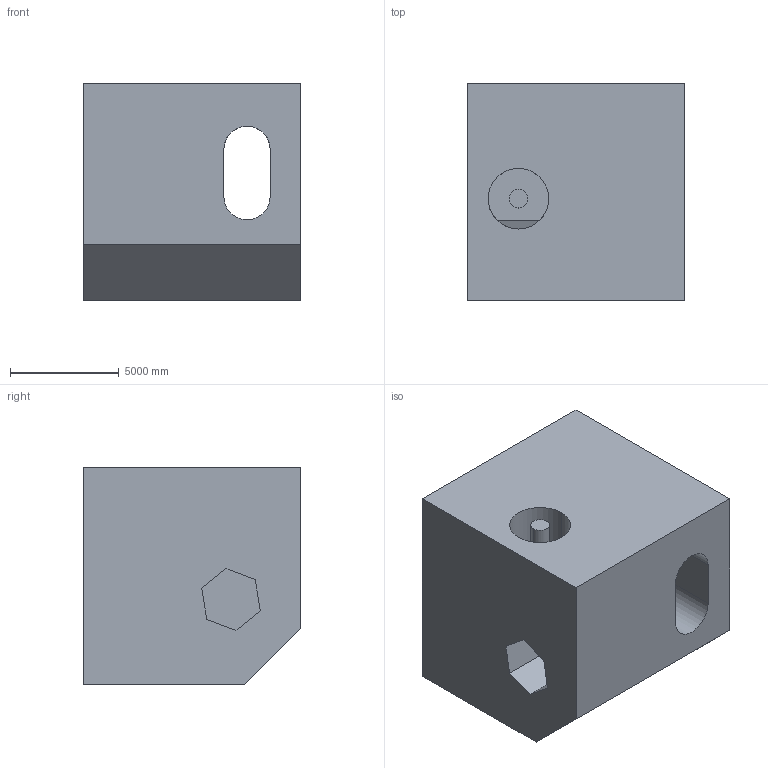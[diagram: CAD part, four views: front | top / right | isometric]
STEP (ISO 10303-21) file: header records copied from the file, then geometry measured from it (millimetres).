
FILE_DESCRIPTION (( 'STEP AP203' ), '1' );
FILE_NAME ('659.STEP', '2022-07-29T12:21:37', ( 'user' ), ( '' ), 'SwSTEP 2.0', 'SolidWorks 2021', '' );
FILE_SCHEMA (( 'CONFIG_CONTROL_DESIGN' ));
Length unit declared in the file: centimetre
Products named in the file (1): 659
Bounding box: 10000 x 10000 x 10000 mm (x, y, z)
Volume: 811883883072.6 mm3; surface area: 816585573.1 mm2
Topology: 1 solids, 1 shells, 50 faces, 141 edges, 94 vertices
Faces by surface type: plane 43, cylinder 7
Entity records: 1689 total; most frequent: CARTESIAN_POINT 349, ORIENTED_EDGE 282, DIRECTION 237, EDGE_CURVE 141, LINE 105, VECTOR 105, VERTEX_POINT 94, AXIS2_PLACEMENT_3D 66
